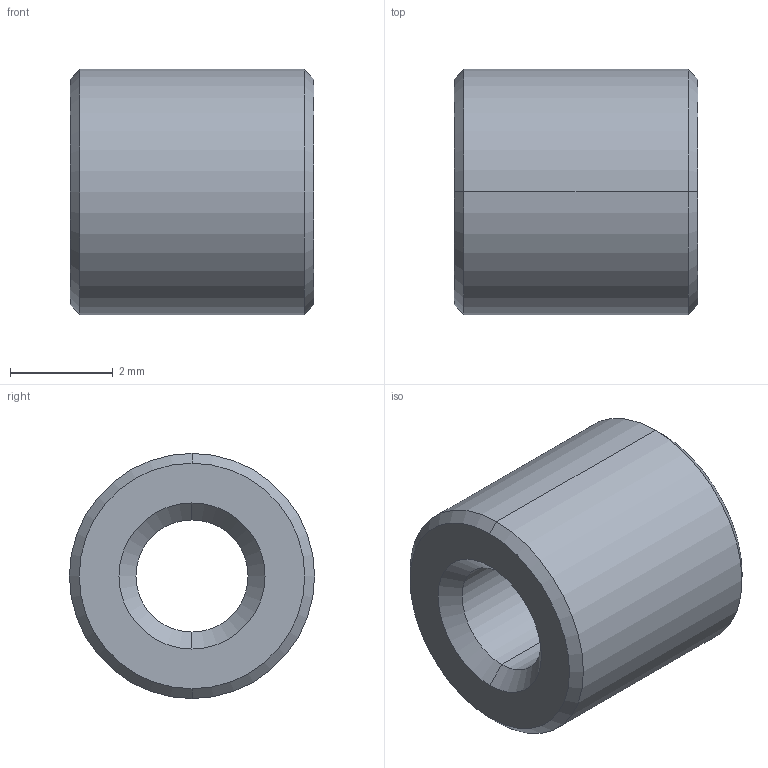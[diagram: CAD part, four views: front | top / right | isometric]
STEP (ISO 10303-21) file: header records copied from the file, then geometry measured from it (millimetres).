
FILE_DESCRIPTION(('starvars output'),'2;1');
FILE_NAME('cv20190724092954000059413.stp','09:29:54 2019/07/24',( 'Thomas Industrial Network Germany GmbH'),( 'Thomas Industrial Network Germany GmbH'),'unknown preprocess','ACIS' ,'unknown authorization');
FILE_SCHEMA(('AUTOMOTIVE_DESIGN_CC2 {UNKNOWN IMPLEMENTATION LEVEL}'));
Length unit declared in the file: millimetre
Products named in the file (1): PRODUCT_ID_2
Bounding box: 4.75 x 4.78 x 4.78 mm (x, y, z)
Volume: 65.9 mm3; surface area: 126.4 mm2
Topology: 1 solids, 1 shells, 14 faces, 28 edges, 16 vertices
Faces by surface type: cone 8, cylinder 4, plane 2
Entity records: 493 total; most frequent: ORIENTED_EDGE 56, CARTESIAN_POINT 44, DIRECTION 44, EDGE_CURVE 28, VERTEX_POINT 16, AXIS2_PLACEMENT_3D 16, EDGE_LOOP 16, FACE_BOUND 16
